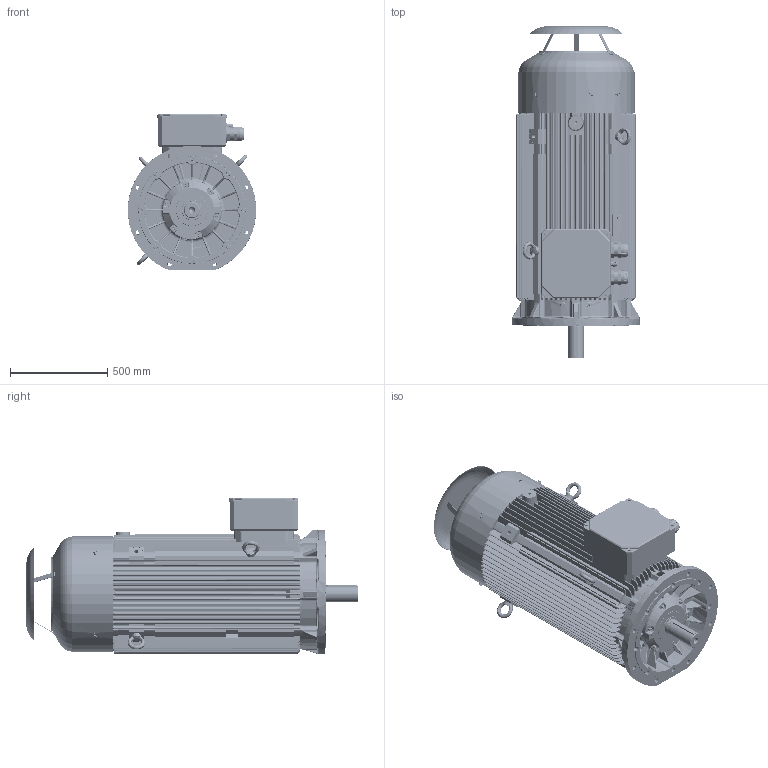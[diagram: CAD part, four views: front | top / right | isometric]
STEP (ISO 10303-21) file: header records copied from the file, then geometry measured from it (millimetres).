
FILE_DESCRIPTION(/* description */ ('Unknown'),/* implementation_level */ '2;1');
FILE_NAME(/* name */ '4SIEK315L2C',/* time_stamp */ '2023-05-10T13:17:44+02:00',/* author */ ('Unknown'),/* organization */ ('Unknown'),/* preprocessor_version */ 'ST-DEVELOPER v16.7',/* originating_system */ 'DEX',/* authorisation */ $);
FILE_SCHEMA (('CONFIG_CONTROL_DESIGN','AUTOMOTIVE_DESIGN {1 0 10303 214 3 1 1}'));
Products named in the file (1): 4SIEK315L2C
Bounding box: 660 x 1705.37 x 805.5 mm (x, y, z)
Volume: 148644222.4 mm3; surface area: 12909914.5 mm2
Topology: 7 solids, 36 shells, 9299 faces, 25364 edges, 15992 vertices
Faces by surface type: plane 5160, cylinder 2025, bspline 764, torus 734, cone 393, sphere 223
Full cylindrical faces by diameter (mm): 1.5 x2, 2.459 x7, 3.1 x4, 3.4 x4, 3.5 x2, 4 x1, 4.5 x1, 4.917 x4, 5 x2, 5.35 x2, 5.5 x3, 6.3 x2, 6.4 x2, 8 x4, 8.16 x8, 8.376 x6, 8.4 x3, 8.917 x1, 10 x24, 10.106 x12, 10.5 x4, 11 x12, 11.5 x1, 13.546 x9, 13.835 x2, 14 x6, 14.376 x20, 14.5 x2, 14.63 x8, 16 x23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
Entity records: 375468 total; most frequent: CARTESIAN_POINT 81383, ORIENTED_EDGE 48504, DIRECTION 44409, EDGE_CURVE 24252, VERTEX_POINT 15696, LINE 15503, VECTOR 15503, AXIS2_PLACEMENT_3D 14453
